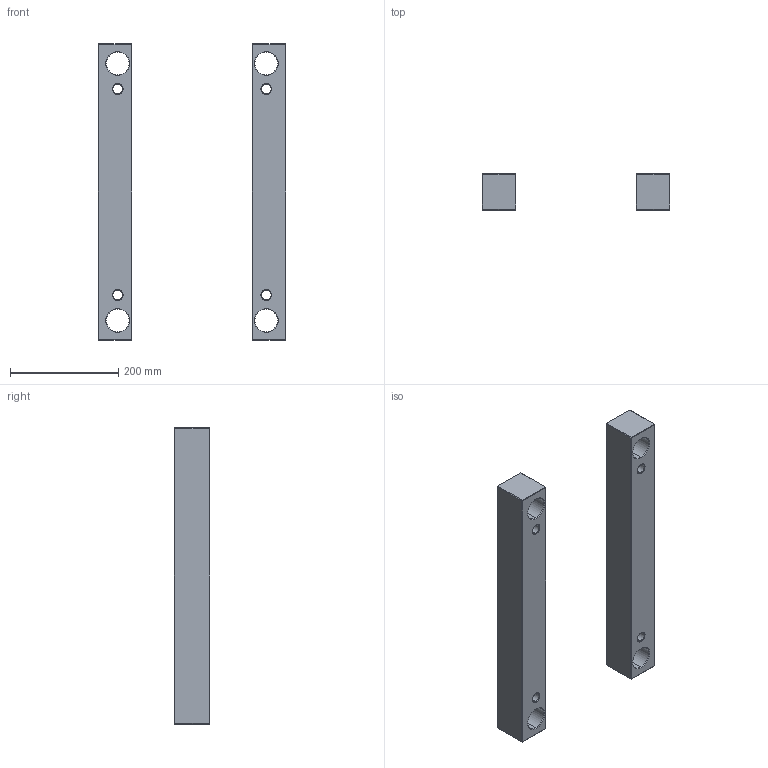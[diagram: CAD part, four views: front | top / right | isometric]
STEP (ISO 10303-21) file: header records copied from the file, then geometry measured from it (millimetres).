
FILE_DESCRIPTION (( 'STEP AP214' ), '1' );
FILE_NAME ('ESP-EU-346X546x66.STEP', '2020-04-16T10:34:56', ( 'August' ), ( '' ), 'SwSTEP 2.0', 'SolidWorks 2018', '' );
FILE_SCHEMA (( 'AUTOMOTIVE_DESIGN' ));
Length unit declared in the file: millimetre
Products named in the file (1): ESP-EU-346X546x66
Bounding box: 346 x 66 x 546 mm (x, y, z)
Volume: 4032071.3 mm3; surface area: 328536.4 mm2
Topology: 2 solids, 2 shells, 100 faces, 208 edges, 112 vertices
Faces by surface type: plane 52, cone 32, cylinder 16
Entity records: 2631 total; most frequent: DIRECTION 474, CARTESIAN_POINT 421, ORIENTED_EDGE 416, EDGE_CURVE 208, AXIS2_PLACEMENT_3D 165, LINE 144, VECTOR 144, EDGE_LOOP 116
